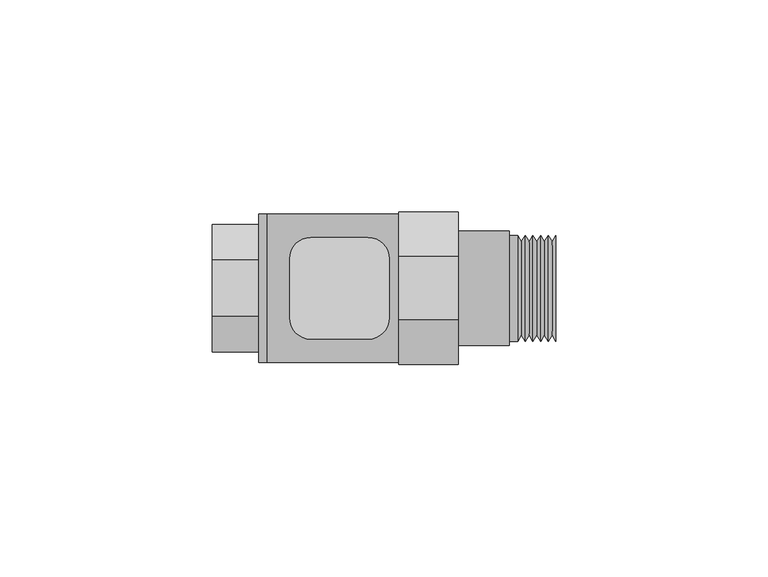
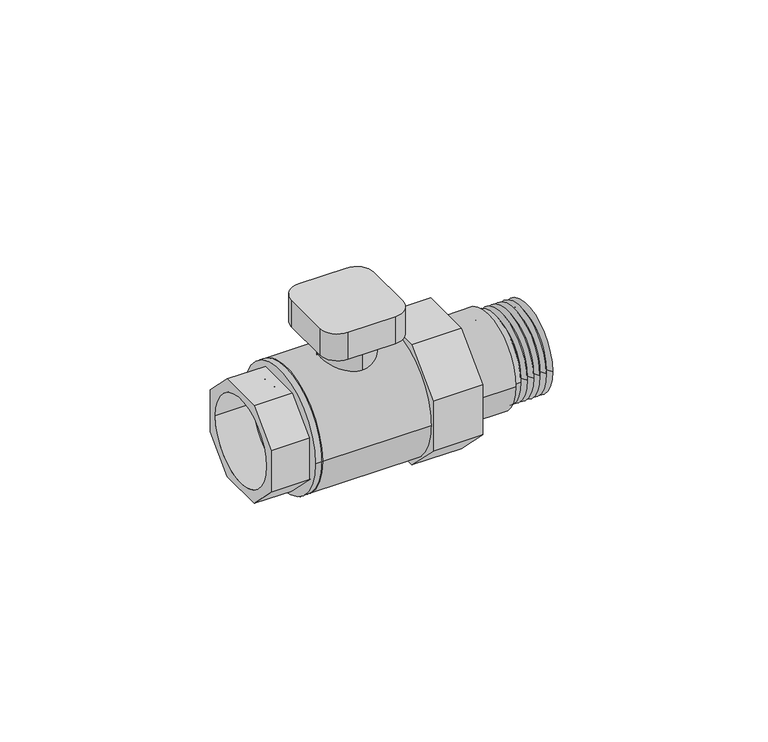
"""IFC4 building model written with IfcOpenShell, lengths in millimetres: valve geometry, Superpipe manifold balancing valve : Superpipe Manifold Balancing Valve - 1”MT x 1”FT."""

from ifc_helpers import new_model, si_unit, point, frame, frame_2d, origin, origin_2d, place, context, project, spatial, polyline, circle_curve, trimmed, segment, composite_curve, outline, extrude, source, transform, mapped, element, save
from ifc_brep_helpers import plane_surface, cylinder_surface, revolved_surface, advanced_brep


def valve_a3a22d59(model_context):
    return source(origin(), model_context, "Body", "SolidModel", [
        extrude(outline(composite_curve([segment(trimmed(circle_curve(frame_2d((36.7091169, 7.0)), 5.0), [point((36.7091169, 12.0))], [point((41.7091169, 7.0))], False, "CARTESIAN"), True, "CONTINUOUS"), segment(polyline([(41.7091169, 7.0), (41.7091169, -7.0)]), True, "CONTINUOUS"), segment(trimmed(circle_curve(frame_2d((36.7091169, -7.0)), 5.0), [point((41.7091169, -7.0))], [point((36.7091169, -12.0))], False, "CARTESIAN"), True, "CONTINUOUS"), segment(polyline([(36.7091169, -12.0), (23.2908831, -12.0)]), True, "CONTINUOUS"), segment(trimmed(circle_curve(frame_2d((23.2908831, -7.0)), 5.0), [point((23.2908831, -12.0))], [point((18.2908831, -7.0))], False, "CARTESIAN"), True, "CONTINUOUS"), segment(polyline([(18.2908831, -7.0), (18.2908831, 7.0)]), True, "CONTINUOUS"), segment(trimmed(circle_curve(frame_2d((23.2908831, 7.0)), 5.0), [point((18.2908831, 7.0))], [point((23.2908831, 12.0))], False, "CARTESIAN"), True, "CONTINUOUS"), segment(polyline([(23.2908831, 12.0), (36.7091169, 12.0)]), True, "CONTINUOUS")], self_intersect=False)), frame((0.0, 0.0, 23.6304611), z_axis=(0.0, 0.0, 1.0), x_axis=(1.0, 0.0, 0.0)), (0.0, 0.0, 1.0), 8.0),
        extrude(outline(composite_curve([segment(trimmed(circle_curve(frame_2d((30.0, 0.0)), 7.5), [point((30.0, 7.5))], [point((30.0, -7.5))], False, "CARTESIAN"), True, "CONTINUOUS"), segment(trimmed(circle_curve(frame_2d((30.0, 0.0)), 7.5), [point((30.0, -7.5))], [point((30.0, 7.5))], False, "CARTESIAN"), True, "CONTINUOUS")], self_intersect=False)), frame((0.0, 0.0, 10.0), z_axis=(0.0, 0.0, 1.0), x_axis=(1.0, 0.0, 0.0)), (0.0, 0.0, 1.0), 13.6304611),
        advanced_brep(
        [(70.0, -12.5, 0.0), (70.0, 12.5, 0.0), (70.0, -10.0, 0.0), (70.0, 10.0, 0.0), (81.0, -12.5, 0.0), (81.0, 12.5, 0.0), (81.0, -10.0, 0.0), (81.0, 10.0, 0.0), (72.0, -12.5, 0.0), (72.0, 12.5, 0.0), (80.1, -11.0, 0.0), (79.2, -12.5, 0.0), (79.2, -8.8388348, -8.8388348), (79.2, 0.0, -12.5), (79.2, 8.8388348, -8.8388348), (79.2, 12.5, 0.0), (80.1, 11.0, 0.0), (79.2, 8.8388348, 8.8388348), (79.2, 0.0, 12.5), (79.2, -8.8388348, 8.8388348), (78.3, -11.0, 0.0), (77.4, -12.5, 0.0), (77.4, -8.8388348, -8.8388348), (77.4, 0.0, -12.5), (77.4, 8.8388348, -8.8388348), (77.4, 12.5, 0.0), (78.3, 11.0, 0.0), (77.4, 8.8388348, 8.8388348), (77.4, 0.0, 12.5), (77.4, -8.8388348, 8.8388348), (76.5, -11.0, 0.0), (75.6, -12.5, 0.0), (75.6, -8.8388348, -8.8388348), (75.6, 0.0, -12.5), (75.6, 8.8388348, -8.8388348), (75.6, 12.5, 0.0), (76.5, 11.0, 0.0), (75.6, 8.8388348, 8.8388348), (75.6, 0.0, 12.5), (75.6, -8.8388348, 8.8388348), (74.7, -11.0, 0.0), (73.8, -12.5, 0.0), (73.8, -8.8388348, -8.8388348), (73.8, 0.0, -12.5), (73.8, 8.8388348, -8.8388348), (73.8, 12.5, 0.0), (74.7, 11.0, 0.0), (73.8, 8.8388348, 8.8388348), (73.8, 0.0, 12.5), (73.8, -8.8388348, 8.8388348), (72.9, -11.0, 0.0), (72.9, 11.0, 0.0)],
        [
            (0, 1, circle_curve(frame((70.0, 0.0, 0.0), z_axis=(-1.0, 0.0, 0.0), x_axis=(0.0, 1.0, 0.0)), 12.5)),
            (1, 0, circle_curve(frame((70.0, 0.0, 0.0), z_axis=(-1.0, 0.0, 0.0), x_axis=(0.0, 1.0, 0.0)), 12.5)),
            (2, 3, circle_curve(frame((70.0, 0.0, 0.0), z_axis=(1.0, 0.0, 0.0), x_axis=(0.0, 1.0, 0.0)), 10.0)),
            (3, 2, circle_curve(frame((70.0, 0.0, 0.0), z_axis=(1.0, 0.0, 0.0), x_axis=(0.0, 1.0, 0.0)), 10.0)),
            (4, 5, circle_curve(frame((81.0, 0.0, 0.0), z_axis=(1.0, 0.0, 0.0), x_axis=(0.0, 1.0, 0.0)), 12.5)),
            (5, 4, circle_curve(frame((81.0, 0.0, 0.0), z_axis=(1.0, 0.0, 0.0), x_axis=(0.0, 1.0, 0.0)), 12.5)),
            (6, 7, circle_curve(frame((81.0, 0.0, 0.0), z_axis=(-1.0, 0.0, 0.0), x_axis=(0.0, 1.0, 0.0)), 10.0)),
            (7, 6, circle_curve(frame((81.0, 0.0, 0.0), z_axis=(-1.0, 0.0, 0.0), x_axis=(0.0, 1.0, 0.0)), 10.0)),
            (0, 8),
            (8, 9, circle_curve(frame((72.0, 0.0, 0.0), z_axis=(-1.0, 0.0, 0.0), x_axis=(0.0, 1.0, 0.0)), 12.5)),
            (9, 1),
            (9, 8, circle_curve(frame((72.0, 0.0, 0.0), z_axis=(-1.0, 0.0, 0.0), x_axis=(0.0, 1.0, 0.0)), 12.5)),
            (2, 6),
            (7, 3),
            (10, 11),
            (11, 12, circle_curve(frame((79.2, 0.0, 0.0), z_axis=(1.0, 0.0, 0.0), x_axis=(0.0, 1.0, 0.0)), 12.5)),
            (12, 13, circle_curve(frame((79.2, 0.0, 0.0), z_axis=(1.0, 0.0, 0.0), x_axis=(0.0, 1.0, 0.0)), 12.5)),
            (13, 14, circle_curve(frame((79.2, 0.0, 0.0), z_axis=(1.0, 0.0, 0.0), x_axis=(0.0, 1.0, 0.0)), 12.5)),
            (14, 15, circle_curve(frame((79.2, 0.0, 0.0), z_axis=(1.0, 0.0, 0.0), x_axis=(0.0, 1.0, 0.0)), 12.5)),
            (15, 16),
            (16, 10, circle_curve(frame((80.1, 0.0, 0.0), z_axis=(-1.0, 0.0, 0.0), x_axis=(0.0, 1.0, 0.0)), 11.0)),
            (10, 16, circle_curve(frame((80.1, 0.0, 0.0), z_axis=(-1.0, 0.0, 0.0), x_axis=(0.0, 1.0, 0.0)), 11.0)),
            (15, 17, circle_curve(frame((79.2, 0.0, 0.0), z_axis=(1.0, 0.0, 0.0), x_axis=(0.0, 1.0, 0.0)), 12.5)),
            (17, 18, circle_curve(frame((79.2, 0.0, 0.0), z_axis=(1.0, 0.0, 0.0), x_axis=(0.0, 1.0, 0.0)), 12.5)),
            (18, 19, circle_curve(frame((79.2, 0.0, 0.0), z_axis=(1.0, 0.0, 0.0), x_axis=(0.0, 1.0, 0.0)), 12.5)),
            (19, 11, circle_curve(frame((79.2, 0.0, 0.0), z_axis=(1.0, 0.0, 0.0), x_axis=(0.0, 1.0, 0.0)), 12.5)),
            (16, 5),
            (4, 10),
            (20, 21),
            (21, 22, circle_curve(frame((77.4, 0.0, 0.0), z_axis=(1.0, 0.0, 0.0), x_axis=(0.0, 1.0, 0.0)), 12.5)),
            (22, 23, circle_curve(frame((77.4, 0.0, 0.0), z_axis=(1.0, 0.0, 0.0), x_axis=(0.0, 1.0, 0.0)), 12.5)),
            (23, 24, circle_curve(frame((77.4, 0.0, 0.0), z_axis=(1.0, 0.0, 0.0), x_axis=(0.0, 1.0, 0.0)), 12.5)),
            (24, 25, circle_curve(frame((77.4, 0.0, 0.0), z_axis=(1.0, 0.0, 0.0), x_axis=(0.0, 1.0, 0.0)), 12.5)),
            (25, 26),
            (26, 20, circle_curve(frame((78.3, 0.0, 0.0), z_axis=(-1.0, 0.0, 0.0), x_axis=(0.0, 1.0, 0.0)), 11.0)),
            (20, 26, circle_curve(frame((78.3, 0.0, 0.0), z_axis=(-1.0, 0.0, 0.0), x_axis=(0.0, 1.0, 0.0)), 11.0)),
            (25, 27, circle_curve(frame((77.4, 0.0, 0.0), z_axis=(1.0, 0.0, 0.0), x_axis=(0.0, 1.0, 0.0)), 12.5)),
            (27, 28, circle_curve(frame((77.4, 0.0, 0.0), z_axis=(1.0, 0.0, 0.0), x_axis=(0.0, 1.0, 0.0)), 12.5)),
            (28, 29, circle_curve(frame((77.4, 0.0, 0.0), z_axis=(1.0, 0.0, 0.0), x_axis=(0.0, 1.0, 0.0)), 12.5)),
            (29, 21, circle_curve(frame((77.4, 0.0, 0.0), z_axis=(1.0, 0.0, 0.0), x_axis=(0.0, 1.0, 0.0)), 12.5)),
            (26, 15),
            (11, 20),
            (30, 31),
            (31, 32, circle_curve(frame((75.6, 0.0, 0.0), z_axis=(1.0, 0.0, 0.0), x_axis=(0.0, 1.0, 0.0)), 12.5)),
            (32, 33, circle_curve(frame((75.6, 0.0, 0.0), z_axis=(1.0, 0.0, 0.0), x_axis=(0.0, 1.0, 0.0)), 12.5)),
            (33, 34, circle_curve(frame((75.6, 0.0, 0.0), z_axis=(1.0, 0.0, 0.0), x_axis=(0.0, 1.0, 0.0)), 12.5)),
            (34, 35, circle_curve(frame((75.6, 0.0, 0.0), z_axis=(1.0, 0.0, 0.0), x_axis=(0.0, 1.0, 0.0)), 12.5)),
            (35, 36),
            (36, 30, circle_curve(frame((76.5, 0.0, 0.0), z_axis=(-1.0, 0.0, 0.0), x_axis=(0.0, 1.0, 0.0)), 11.0)),
            (30, 36, circle_curve(frame((76.5, 0.0, 0.0), z_axis=(-1.0, 0.0, 0.0), x_axis=(0.0, 1.0, 0.0)), 11.0)),
            (35, 37, circle_curve(frame((75.6, 0.0, 0.0), z_axis=(1.0, 0.0, 0.0), x_axis=(0.0, 1.0, 0.0)), 12.5)),
            (37, 38, circle_curve(frame((75.6, 0.0, 0.0), z_axis=(1.0, 0.0, 0.0), x_axis=(0.0, 1.0, 0.0)), 12.5)),
            (38, 39, circle_curve(frame((75.6, 0.0, 0.0), z_axis=(1.0, 0.0, 0.0), x_axis=(0.0, 1.0, 0.0)), 12.5)),
            (39, 31, circle_curve(frame((75.6, 0.0, 0.0), z_axis=(1.0, 0.0, 0.0), x_axis=(0.0, 1.0, 0.0)), 12.5)),
            (36, 25),
            (21, 30),
            (40, 41),
            (41, 42, circle_curve(frame((73.8, 0.0, 0.0), z_axis=(1.0, 0.0, 0.0), x_axis=(0.0, 1.0, 0.0)), 12.5)),
            (42, 43, circle_curve(frame((73.8, 0.0, 0.0), z_axis=(1.0, 0.0, 0.0), x_axis=(0.0, 1.0, 0.0)), 12.5)),
            (43, 44, circle_curve(frame((73.8, 0.0, 0.0), z_axis=(1.0, 0.0, 0.0), x_axis=(0.0, 1.0, 0.0)), 12.5)),
            (44, 45, circle_curve(frame((73.8, 0.0, 0.0), z_axis=(1.0, 0.0, 0.0), x_axis=(0.0, 1.0, 0.0)), 12.5)),
            (45, 46),
            (46, 40, circle_curve(frame((74.7, 0.0, 0.0), z_axis=(-1.0, 0.0, 0.0), x_axis=(0.0, 1.0, 0.0)), 11.0)),
            (40, 46, circle_curve(frame((74.7, 0.0, 0.0), z_axis=(-1.0, 0.0, 0.0), x_axis=(0.0, 1.0, 0.0)), 11.0)),
            (45, 47, circle_curve(frame((73.8, 0.0, 0.0), z_axis=(1.0, 0.0, 0.0), x_axis=(0.0, 1.0, 0.0)), 12.5)),
            (47, 48, circle_curve(frame((73.8, 0.0, 0.0), z_axis=(1.0, 0.0, 0.0), x_axis=(0.0, 1.0, 0.0)), 12.5)),
            (48, 49, circle_curve(frame((73.8, 0.0, 0.0), z_axis=(1.0, 0.0, 0.0), x_axis=(0.0, 1.0, 0.0)), 12.5)),
            (49, 41, circle_curve(frame((73.8, 0.0, 0.0), z_axis=(1.0, 0.0, 0.0), x_axis=(0.0, 1.0, 0.0)), 12.5)),
            (46, 35),
            (31, 40),
            (50, 8),
            (9, 51),
            (51, 50, circle_curve(frame((72.9, 0.0, 0.0), z_axis=(-1.0, 0.0, 0.0), x_axis=(0.0, 1.0, 0.0)), 11.0)),
            (50, 51, circle_curve(frame((72.9, 0.0, 0.0), z_axis=(-1.0, 0.0, 0.0), x_axis=(0.0, 1.0, 0.0)), 11.0)),
            (51, 45),
            (41, 50),
        ],
        [
            plane_surface(frame((70.0, 0.0, 0.0), z_axis=(-1.0, 0.0, 0.0), x_axis=(0.0, 0.0, 1.0))),
            plane_surface(frame((81.0, 0.0, 0.0), z_axis=(1.0, 0.0, 0.0), x_axis=(0.0, 0.0, 1.0))),
            cylinder_surface(frame((70.0, 0.0, 0.0), z_axis=(-1.0, 0.0, 0.0), x_axis=(0.0, 1.0, 0.0)), 12.5),
            revolved_surface(polyline([(81.0, 10.0, 0.0), (70.0, 10.0, 0.0)]), (70.0, 0.0, 0.0), (1.0, 0.0, 0.0)),
            revolved_surface(polyline([(80.1, 11.0, 0.0), (79.2, 12.5, 0.0)]), (1524.0, 0.0, 0.0), (-1.0, 0.0, 0.0)),
            revolved_surface(polyline([(81.0, 12.5, 0.0), (80.1, 11.0, 0.0)]), (1524.0, 0.0, 0.0), (-1.0, 0.0, 0.0)),
            revolved_surface(polyline([(78.3, 11.0, 0.0), (77.4, 12.5, 0.0)]), (1522.2, 0.0, 0.0), (-1.0, 0.0, 0.0)),
            revolved_surface(polyline([(79.2, 12.5, 0.0), (78.3, 11.0, 0.0)]), (1522.2, 0.0, 0.0), (-1.0, 0.0, 0.0)),
            revolved_surface(polyline([(76.5, 11.0, 0.0), (75.6, 12.5, 0.0)]), (1520.4, 0.0, 0.0), (-1.0, 0.0, 0.0)),
            revolved_surface(polyline([(77.4, 12.5, 0.0), (76.5, 11.0, 0.0)]), (1520.4, 0.0, 0.0), (-1.0, 0.0, 0.0)),
            revolved_surface(polyline([(74.7, 11.0, 0.0), (73.8, 12.5, 0.0)]), (1518.6, 0.0, 0.0), (-1.0, 0.0, 0.0)),
            revolved_surface(polyline([(75.6, 12.5, 0.0), (74.7, 11.0, 0.0)]), (1518.6, 0.0, 0.0), (-1.0, 0.0, 0.0)),
            revolved_surface(polyline([(72.9, 11.0, 0.0), (72.0, 12.5, 0.0)]), (1516.8, 0.0, 0.0), (-1.0, 0.0, 0.0)),
            revolved_surface(polyline([(73.8, 12.5, 0.0), (72.9, 11.0, 0.0)]), (1516.8, 0.0, 0.0), (-1.0, 0.0, 0.0)),
        ],
        [
            (0, [[1, 2], [3, 4]]),
            (1, [[5, 6], [7, 8]]),
            (2, [[-1, 9, 10, 11]]),
            (2, [[-2, -11, 12, -9]]),
            (3, [[-3, 13, -8, 14]]),
            (3, [[-4, -14, -7, -13]]),
            (4, [[15, 16, 17, 18, 19, 20, 21]]),
            (4, [[-15, 22, -20, 23, 24, 25, 26]]),
            (5, [[-21, 27, -5, 28]]),
            (5, [[-22, -28, -6, -27]]),
            (6, [[29, 30, 31, 32, 33, 34, 35]]),
            (6, [[-29, 36, -34, 37, 38, 39, 40]]),
            (7, [[-35, 41, -19, -18, -17, -16, 42]]),
            (7, [[-36, -42, -26, -25, -24, -23, -41]]),
            (8, [[43, 44, 45, 46, 47, 48, 49]]),
            (8, [[-43, 50, -48, 51, 52, 53, 54]]),
            (9, [[-49, 55, -33, -32, -31, -30, 56]]),
            (9, [[-50, -56, -40, -39, -38, -37, -55]]),
            (10, [[57, 58, 59, 60, 61, 62, 63]]),
            (10, [[-57, 64, -62, 65, 66, 67, 68]]),
            (11, [[-63, 69, -47, -46, -45, -44, 70]]),
            (11, [[-64, -70, -54, -53, -52, -51, -69]]),
            (12, [[71, -12, 72, 73]]),
            (12, [[-71, 74, -72, -10]]),
            (13, [[-73, 75, -61, -60, -59, -58, 76]]),
            (13, [[-74, -76, -68, -67, -66, -65, -75]]),
        ],
    ),
        extrude(outline(composite_curve([segment(trimmed(circle_curve(origin_2d(), 13.5), [point((-13.5, 0.0))], [point((13.5, 0.0))], False, "CARTESIAN"), True, "CONTINUOUS"), segment(trimmed(circle_curve(origin_2d(), 13.5), [point((13.5, 0.0))], [point((-13.5, 0.0))], False, "CARTESIAN"), True, "CONTINUOUS")], self_intersect=False), holes=[composite_curve([segment(trimmed(circle_curve(origin_2d(), 10.0), [point((-10.0, 0.0))], [point((10.0, 0.0))], True, "CARTESIAN"), True, "CONTINUOUS"), segment(trimmed(circle_curve(origin_2d(), 10.0), [point((10.0, 0.0))], [point((-10.0, 0.0))], True, "CARTESIAN"), True, "CONTINUOUS")], self_intersect=False)]), frame((58.0, 0.0, 0.0), z_axis=(1.0, 0.0, 0.0), x_axis=(0.0, 1.0, 0.0)), (0.0, 0.0, 1.0), 12.0),
        extrude(outline(polyline([(-7.4558441, -18.0), (-18.0, -7.4558441), (-18.0, 7.4558441), (-7.4558441, 18.0), (7.4558441, 18.0), (18.0, 7.4558441), (18.0, -7.4558441), (7.4558441, -18.0), (-7.4558441, -18.0)]), holes=[composite_curve([segment(trimmed(circle_curve(origin_2d(), 10.0), [point((-10.0, 0.0))], [point((10.0, 0.0))], True, "CARTESIAN"), True, "CONTINUOUS"), segment(trimmed(circle_curve(origin_2d(), 10.0), [point((10.0, 0.0))], [point((-10.0, 0.0))], True, "CARTESIAN"), True, "CONTINUOUS")], self_intersect=False)]), frame((44.0, 0.0, 0.0), z_axis=(1.0, 0.0, 0.0), x_axis=(0.0, 1.0, 0.0)), (0.0, 0.0, 1.0), 14.0),
        extrude(outline(composite_curve([segment(trimmed(circle_curve(origin_2d(), 17.5), [point((-17.5, 0.0))], [point((17.5, 0.0))], False, "CARTESIAN"), True, "CONTINUOUS"), segment(trimmed(circle_curve(origin_2d(), 17.5), [point((17.5, 0.0))], [point((-17.5, 0.0))], False, "CARTESIAN"), True, "CONTINUOUS")], self_intersect=False), holes=[composite_curve([segment(trimmed(circle_curve(origin_2d(), 10.0), [point((-10.0, 0.0))], [point((10.0, 0.0))], True, "CARTESIAN"), True, "CONTINUOUS"), segment(trimmed(circle_curve(origin_2d(), 10.0), [point((10.0, 0.0))], [point((-10.0, 0.0))], True, "CARTESIAN"), True, "CONTINUOUS")], self_intersect=False)]), frame((13.0, 0.0, 0.0), z_axis=(1.0, 0.0, 0.0), x_axis=(0.0, 1.0, 0.0)), (0.0, 0.0, 1.0), 31.0),
        extrude(outline(composite_curve([segment(trimmed(circle_curve(origin_2d(), 17.5), [point((-17.5, 0.0))], [point((17.5, 0.0))], False, "CARTESIAN"), True, "CONTINUOUS"), segment(trimmed(circle_curve(origin_2d(), 17.5), [point((17.5, 0.0))], [point((-17.5, 0.0))], False, "CARTESIAN"), True, "CONTINUOUS")], self_intersect=False), holes=[composite_curve([segment(trimmed(circle_curve(origin_2d(), 10.0), [point((-10.0, 0.0))], [point((10.0, 0.0))], True, "CARTESIAN"), True, "CONTINUOUS"), segment(trimmed(circle_curve(origin_2d(), 10.0), [point((10.0, 0.0))], [point((-10.0, 0.0))], True, "CARTESIAN"), True, "CONTINUOUS")], self_intersect=False)]), frame((11.0, 0.0, 0.0), z_axis=(1.0, 0.0, 0.0), x_axis=(0.0, 1.0, 0.0)), (0.0, 0.0, 1.0), 2.0),
        extrude(outline(polyline([(-6.627417, -14.5857864), (-15.0, -6.2132034), (-15.0, 6.2132034), (-6.627417, 14.5857864), (6.627417, 14.5857864), (15.0, 6.2132034), (15.0, -6.2132034), (6.627417, -14.5857864), (-6.627417, -14.5857864)]), holes=[composite_curve([segment(trimmed(circle_curve(origin_2d(), 12.5), [point((-12.5, 0.0))], [point((12.5, 0.0))], True, "CARTESIAN"), True, "CONTINUOUS"), segment(trimmed(circle_curve(origin_2d(), 12.5), [point((12.5, 0.0))], [point((-12.5, 0.0))], True, "CARTESIAN"), True, "CONTINUOUS")], self_intersect=False)]), frame((0.0, 0.0, 0.0), z_axis=(1.0, 0.0, 0.0), x_axis=(0.0, 1.0, 0.0)), (0.0, 0.0, 1.0), 11.0),
    ])


if __name__ == "__main__":
    model = new_model("IFC4")
    model_context = context("Model", 3, world=origin())
    ifc_project = project(units=[si_unit("LENGTHUNIT", "METRE", prefix="MILLI")], contexts=[model_context])
    site = spatial("IfcSite", under=ifc_project)
    building = spatial("IfcBuilding", under=site)
    placement = place(None, origin())
    valve_shape = valve_a3a22d59(model_context)
    element("IfcValve", 1, ObjectType="Superpipe manifold balancing valve : Superpipe Manifold Balancing Valve - 1”MT x 1”FT", at=placement, inside=building, context=model_context, shape_type="MappedRepresentation", body=[
        mapped(valve_shape, transform((0.0, 0.0, 0.0), x_axis=(1.0, 0.0, 0.0), y_axis=(0.0, 1.0, 0.0), z_axis=(0.0, 0.0, 1.0))),
    ])
    save(model, "model.ifc")
